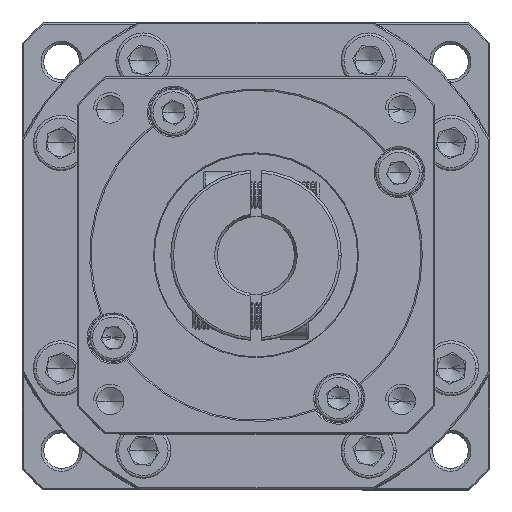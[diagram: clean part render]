
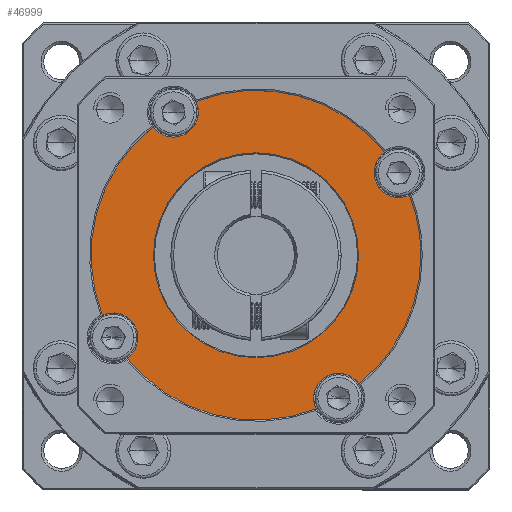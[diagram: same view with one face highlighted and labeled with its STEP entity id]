
A CAD part, top view. The second image highlights one B-rep face of the part: STEP entity #46999.
In plain terms, the highlighted planar face has unit normal (0, 0, 1).
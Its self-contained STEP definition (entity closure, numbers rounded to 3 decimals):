
#749 = AXIS2_PLACEMENT_3D ( 'NONE', #49427, #50787, #59959 ) ;
#1889 = AXIS2_PLACEMENT_3D ( 'NONE', #60174, #102789, #40044 ) ;
#2252 = VERTEX_POINT ( 'NONE', #56975 ) ;
#2270 = DIRECTION ( 'NONE',  ( 1., 0., 0. ) ) ;
#2376 = CARTESIAN_POINT ( 'NONE',  ( -62.214, 59.129, 10.67 ) ) ;
#2468 = CIRCLE ( 'NONE', #749, 4.5 ) ;
#3130 = VERTEX_POINT ( 'NONE', #52255 ) ;
#3952 = PLANE ( 'NONE',  #4143 ) ;
#4143 = AXIS2_PLACEMENT_3D ( 'NONE', #87904, #25408, #13596 ) ;
#5411 = EDGE_CURVE ( 'NONE', #6702, #8259, #45481, .T. ) ;
#6702 = VERTEX_POINT ( 'NONE', #100306 ) ;
#7631 = ORIENTED_EDGE ( 'NONE', *, *, #56754, .T. ) ;
#8259 = VERTEX_POINT ( 'NONE', #58803 ) ;
#9344 = AXIS2_PLACEMENT_3D ( 'NONE', #48205, #90254, #59166 ) ;
#11067 = EDGE_CURVE ( 'NONE', #103632, #132113, #77606, .T. ) ;
#12788 = DIRECTION ( 'NONE',  ( 0., 0., 1. ) ) ;
#13596 = DIRECTION ( 'NONE',  ( 1., 0., 0. ) ) ;
#13755 = AXIS2_PLACEMENT_3D ( 'NONE', #47574, #77272, #58096 ) ;
#13856 = CIRCLE ( 'NONE', #80002, 30. ) ;
#15237 = EDGE_CURVE ( 'NONE', #3130, #76037, #13856, .T. ) ;
#17163 = ORIENTED_EDGE ( 'NONE', *, *, #61868, .T. ) ;
#19163 = ORIENTED_EDGE ( 'NONE', *, *, #92007, .F. ) ;
#20181 = VERTEX_POINT ( 'NONE', #79876 ) ;
#20234 = ORIENTED_EDGE ( 'NONE', *, *, #15237, .T. ) ;
#20595 = CARTESIAN_POINT ( 'NONE',  ( -80.932, 82.574, 10.67 ) ) ;
#23468 = AXIS2_PLACEMENT_3D ( 'NONE', #28942, #134053, #71312 ) ;
#24236 = EDGE_CURVE ( 'NONE', #20181, #76037, #109186, .T. ) ;
#24373 = DIRECTION ( 'NONE',  ( 1., 0., 0. ) ) ;
#24559 = ORIENTED_EDGE ( 'NONE', *, *, #71296, .F. ) ;
#24854 = CIRCLE ( 'NONE', #37730, 4.5 ) ;
#24936 = VERTEX_POINT ( 'NONE', #76676 ) ;
#25408 = DIRECTION ( 'NONE',  ( 0., 0., 1. ) ) ;
#27149 = CARTESIAN_POINT ( 'NONE',  ( -62.214, 59.129, 10.67 ) ) ;
#28942 = CARTESIAN_POINT ( 'NONE',  ( -36.233, 74.129, 10.67 ) ) ;
#30175 = CARTESIAN_POINT ( 'NONE',  ( -88.195, 44.129, 10.67 ) ) ;
#31974 = EDGE_CURVE ( 'NONE', #132113, #8259, #55897, .T. ) ;
#32449 = ORIENTED_EDGE ( 'NONE', *, *, #11067, .T. ) ;
#32970 = CARTESIAN_POINT ( 'NONE',  ( -51.269, 31.197, 10.67 ) ) ;
#33450 = CIRCLE ( 'NONE', #112274, 30. ) ;
#35387 = DIRECTION ( 'NONE',  ( 1., 0., 0. ) ) ;
#35453 = ORIENTED_EDGE ( 'NONE', *, *, #5411, .F. ) ;
#37730 = AXIS2_PLACEMENT_3D ( 'NONE', #30175, #12788, #2270 ) ;
#40044 = DIRECTION ( 'NONE',  ( 1., 0., 0. ) ) ;
#40277 = EDGE_CURVE ( 'NONE', #24936, #50722, #61484, .T. ) ;
#40911 = EDGE_CURVE ( 'NONE', #133268, #133125, #2468, .T. ) ;
#43452 = CARTESIAN_POINT ( 'NONE',  ( -72.714, 85.109, 10.67 ) ) ;
#45481 = CIRCLE ( 'NONE', #23468, 4.5 ) ;
#46248 = DIRECTION ( 'NONE',  ( 0., 0., 1. ) ) ;
#46335 = ORIENTED_EDGE ( 'NONE', *, *, #133491, .F. ) ;
#46606 = CARTESIAN_POINT ( 'NONE',  ( -90.146, 48.184, 10.67 ) ) ;
#46999 = ADVANCED_FACE ( 'NONE', ( #127773, #99996 ), #3952, .T. ) ;
#47574 = CARTESIAN_POINT ( 'NONE',  ( -36.233, 74.129, 10.67 ) ) ;
#47946 = EDGE_CURVE ( 'NONE', #120434, #91523, #123864, .T. ) ;
#48205 = CARTESIAN_POINT ( 'NONE',  ( -62.214, 59.129, 10.67 ) ) ;
#49427 = CARTESIAN_POINT ( 'NONE',  ( -88.195, 44.129, 10.67 ) ) ;
#50198 = DIRECTION ( 'NONE',  ( 0., 0., 1. ) ) ;
#50722 = VERTEX_POINT ( 'NONE', #89896 ) ;
#50744 = ORIENTED_EDGE ( 'NONE', *, *, #40277, .T. ) ;
#50787 = DIRECTION ( 'NONE',  ( 0., 0., 1. ) ) ;
#51300 = CIRCLE ( 'NONE', #126278, 4.5 ) ;
#52255 = CARTESIAN_POINT ( 'NONE',  ( -85.659, 40.411, 10.67 ) ) ;
#53477 = DIRECTION ( 'NONE',  ( 1., 0., 0. ) ) ;
#55897 = CIRCLE ( 'NONE', #89258, 30. ) ;
#56244 = DIRECTION ( 'NONE',  ( 0., 0., 1. ) ) ;
#56754 = EDGE_CURVE ( 'NONE', #2252, #91523, #84695, .T. ) ;
#56975 = CARTESIAN_POINT ( 'NONE',  ( -38.769, 77.846, 10.67 ) ) ;
#58096 = DIRECTION ( 'NONE',  ( 1., 0., 0. ) ) ;
#58803 = CARTESIAN_POINT ( 'NONE',  ( -34.282, 70.074, 10.67 ) ) ;
#59166 = DIRECTION ( 'NONE',  ( 1., 0., 0. ) ) ;
#59959 = DIRECTION ( 'NONE',  ( 1., 0., 0. ) ) ;
#60174 = CARTESIAN_POINT ( 'NONE',  ( -62.214, 59.129, 10.67 ) ) ;
#61484 = CIRCLE ( 'NONE', #9344, 18.644 ) ;
#61868 = EDGE_CURVE ( 'NONE', #95923, #133125, #33450, .T. ) ;
#61922 = EDGE_CURVE ( 'NONE', #95923, #120434, #51300, .T. ) ;
#66424 = DIRECTION ( 'NONE',  ( 1., 0., 0. ) ) ;
#66452 = CIRCLE ( 'NONE', #1889, 18.644 ) ;
#67282 = DIRECTION ( 'NONE',  ( 0., 0., 1. ) ) ;
#67904 = DIRECTION ( 'NONE',  ( 0., 0., 1. ) ) ;
#71296 = EDGE_CURVE ( 'NONE', #103632, #20181, #80929, .T. ) ;
#71312 = DIRECTION ( 'NONE',  ( 1., 0., 0. ) ) ;
#73392 = DIRECTION ( 'NONE',  ( 1., 0., 0. ) ) ;
#76037 = VERTEX_POINT ( 'NONE', #32970 ) ;
#76099 = ORIENTED_EDGE ( 'NONE', *, *, #40911, .F. ) ;
#76676 = CARTESIAN_POINT ( 'NONE',  ( -80.858, 59.129, 10.67 ) ) ;
#76931 = EDGE_CURVE ( 'NONE', #50722, #24936, #66452, .T. ) ;
#77272 = DIRECTION ( 'NONE',  ( 0., 0., 1. ) ) ;
#77606 = CIRCLE ( 'NONE', #129358, 30. ) ;
#78845 = DIRECTION ( 'NONE',  ( 1., 0., 0. ) ) ;
#79876 = CARTESIAN_POINT ( 'NONE',  ( -51.714, 33.148, 10.67 ) ) ;
#80002 = AXIS2_PLACEMENT_3D ( 'NONE', #2376, #106597, #53477 ) ;
#80929 = CIRCLE ( 'NONE', #110119, 4.5 ) ;
#81264 = AXIS2_PLACEMENT_3D ( 'NONE', #81271, #50198, #93220 ) ;
#81271 = CARTESIAN_POINT ( 'NONE',  ( -77.214, 85.109, 10.67 ) ) ;
#82123 = CARTESIAN_POINT ( 'NONE',  ( -77.214, 85.109, 10.67 ) ) ;
#82795 = AXIS2_PLACEMENT_3D ( 'NONE', #129523, #46248, #35387 ) ;
#84695 = CIRCLE ( 'NONE', #85171, 30. ) ;
#84763 = CARTESIAN_POINT ( 'NONE',  ( -43.497, 35.684, 10.67 ) ) ;
#85171 = AXIS2_PLACEMENT_3D ( 'NONE', #86987, #119133, #66424 ) ;
#86572 = CARTESIAN_POINT ( 'NONE',  ( -62.214, 59.129, 10.67 ) ) ;
#86987 = CARTESIAN_POINT ( 'NONE',  ( -62.214, 59.129, 10.67 ) ) ;
#87027 = DIRECTION ( 'NONE',  ( 1., 0., 0. ) ) ;
#87904 = CARTESIAN_POINT ( 'NONE',  ( -62.214, 59.129, 10.67 ) ) ;
#89258 = AXIS2_PLACEMENT_3D ( 'NONE', #130335, #56244, #24373 ) ;
#89896 = CARTESIAN_POINT ( 'NONE',  ( -43.57, 59.129, 10.67 ) ) ;
#90254 = DIRECTION ( 'NONE',  ( 0., 0., -1. ) ) ;
#91523 = VERTEX_POINT ( 'NONE', #113179 ) ;
#91807 = CARTESIAN_POINT ( 'NONE',  ( -83.695, 44.129, 10.67 ) ) ;
#92007 = EDGE_CURVE ( 'NONE', #2252, #6702, #103140, .T. ) ;
#92299 = ORIENTED_EDGE ( 'NONE', *, *, #47946, .F. ) ;
#92495 = ORIENTED_EDGE ( 'NONE', *, *, #24236, .F. ) ;
#93220 = DIRECTION ( 'NONE',  ( 1., 0., 0. ) ) ;
#95923 = VERTEX_POINT ( 'NONE', #20595 ) ;
#98321 = ORIENTED_EDGE ( 'NONE', *, *, #31974, .T. ) ;
#99352 = EDGE_LOOP ( 'NONE', ( #129562, #50744 ) ) ;
#99996 = FACE_OUTER_BOUND ( 'NONE', #127993, .T. ) ;
#100306 = CARTESIAN_POINT ( 'NONE',  ( -40.733, 74.129, 10.67 ) ) ;
#100307 = DIRECTION ( 'NONE',  ( 1., 0., 0. ) ) ;
#102789 = DIRECTION ( 'NONE',  ( 0., 0., -1. ) ) ;
#103140 = CIRCLE ( 'NONE', #13755, 4.5 ) ;
#103632 = VERTEX_POINT ( 'NONE', #84763 ) ;
#106597 = DIRECTION ( 'NONE',  ( 0., 0., 1. ) ) ;
#109186 = CIRCLE ( 'NONE', #82795, 4.5 ) ;
#110119 = AXIS2_PLACEMENT_3D ( 'NONE', #130602, #67904, #78845 ) ;
#112274 = AXIS2_PLACEMENT_3D ( 'NONE', #27149, #67282, #100307 ) ;
#113179 = CARTESIAN_POINT ( 'NONE',  ( -73.159, 87.061, 10.67 ) ) ;
#115688 = ORIENTED_EDGE ( 'NONE', *, *, #61922, .F. ) ;
#117395 = DIRECTION ( 'NONE',  ( 0., 0., 1. ) ) ;
#119133 = DIRECTION ( 'NONE',  ( 0., 0., 1. ) ) ;
#120434 = VERTEX_POINT ( 'NONE', #43452 ) ;
#120624 = CARTESIAN_POINT ( 'NONE',  ( -32.214, 59.129, 10.67 ) ) ;
#123831 = DIRECTION ( 'NONE',  ( 0., 0., 1. ) ) ;
#123864 = CIRCLE ( 'NONE', #81264, 4.5 ) ;
#126278 = AXIS2_PLACEMENT_3D ( 'NONE', #82123, #123831, #73392 ) ;
#127773 = FACE_BOUND ( 'NONE', #99352, .T. ) ;
#127993 = EDGE_LOOP ( 'NONE', ( #46335, #20234, #92495, #24559, #32449, #98321, #35453, #19163, #7631, #92299, #115688, #17163, #76099 ) ) ;
#129358 = AXIS2_PLACEMENT_3D ( 'NONE', #86572, #117395, #87027 ) ;
#129523 = CARTESIAN_POINT ( 'NONE',  ( -47.214, 33.148, 10.67 ) ) ;
#129562 = ORIENTED_EDGE ( 'NONE', *, *, #76931, .T. ) ;
#130335 = CARTESIAN_POINT ( 'NONE',  ( -62.214, 59.129, 10.67 ) ) ;
#130602 = CARTESIAN_POINT ( 'NONE',  ( -47.214, 33.148, 10.67 ) ) ;
#132113 = VERTEX_POINT ( 'NONE', #120624 ) ;
#133125 = VERTEX_POINT ( 'NONE', #46606 ) ;
#133268 = VERTEX_POINT ( 'NONE', #91807 ) ;
#133491 = EDGE_CURVE ( 'NONE', #3130, #133268, #24854, .T. ) ;
#134053 = DIRECTION ( 'NONE',  ( 0., 0., 1. ) ) ;
